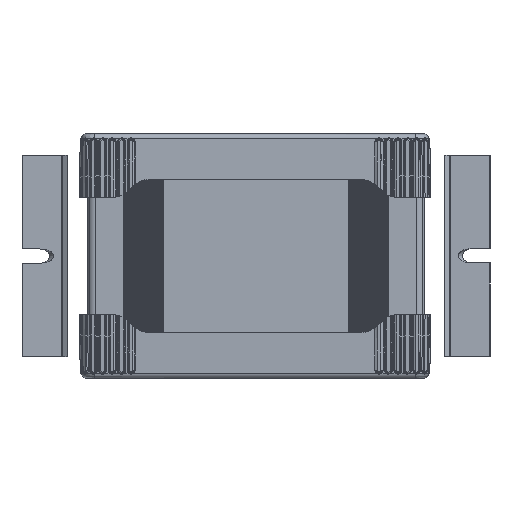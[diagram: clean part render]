
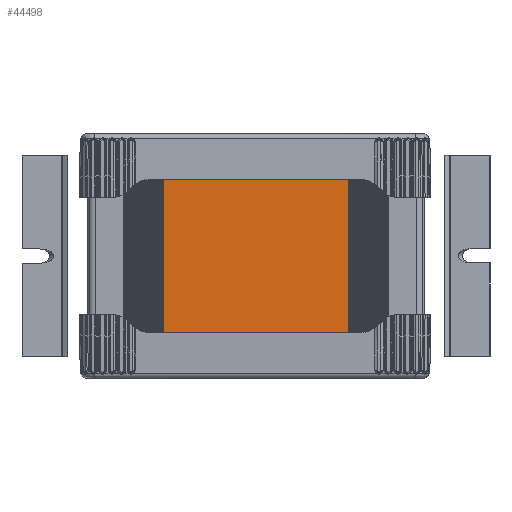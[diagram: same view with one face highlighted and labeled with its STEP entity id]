
A CAD part, front view. The second image highlights one B-rep face of the part: STEP entity #44498.
In plain terms, the highlighted planar face has unit normal (0, -1, 0).
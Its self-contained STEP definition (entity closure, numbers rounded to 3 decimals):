
#680 = CARTESIAN_POINT ( 'NONE',  ( -36.275, -16.808, 40.25 ) ) ;
#4813 = VERTEX_POINT ( 'NONE', #680 ) ;
#5842 = LINE ( 'NONE', #43972, #31419 ) ;
#5951 = ORIENTED_EDGE ( 'NONE', *, *, #16249, .T. ) ;
#12753 = PLANE ( 'NONE',  #43008 ) ;
#15816 = CARTESIAN_POINT ( 'NONE',  ( 37.042, -16.808, 40.25 ) ) ;
#15866 = DIRECTION ( 'NONE',  ( 0., 0., -1. ) ) ;
#16249 = EDGE_CURVE ( 'NONE', #50036, #33842, #5842, .T. ) ;
#16640 = VECTOR ( 'NONE', #15866, 1000. ) ;
#18359 = CARTESIAN_POINT ( 'NONE',  ( -36.275, -16.808, -40.25 ) ) ;
#21310 = ORIENTED_EDGE ( 'NONE', *, *, #29908, .F. ) ;
#21967 = LINE ( 'NONE', #15816, #34821 ) ;
#22445 = DIRECTION ( 'NONE',  ( 0., 0., 1. ) ) ;
#25884 = VECTOR ( 'NONE', #30947, 1000. ) ;
#29601 = EDGE_CURVE ( 'NONE', #4813, #50036, #42253, .T. ) ;
#29763 = FACE_OUTER_BOUND ( 'NONE', #56979, .T. ) ;
#29908 = EDGE_CURVE ( 'NONE', #58936, #33842, #21967, .T. ) ;
#30947 = DIRECTION ( 'NONE',  ( 1., 0., 0. ) ) ;
#30958 = DIRECTION ( 'NONE',  ( 0., 0., -1. ) ) ;
#31419 = VECTOR ( 'NONE', #59324, 1000. ) ;
#33381 = CARTESIAN_POINT ( 'NONE',  ( 37.042, -16.808, 40.25 ) ) ;
#33842 = VERTEX_POINT ( 'NONE', #62002 ) ;
#34821 = VECTOR ( 'NONE', #30958, 1000. ) ;
#40204 = LINE ( 'NONE', #49926, #25884 ) ;
#41622 = ORIENTED_EDGE ( 'NONE', *, *, #29601, .T. ) ;
#42253 = LINE ( 'NONE', #44623, #16640 ) ;
#42339 = EDGE_CURVE ( 'NONE', #4813, #58936, #40204, .T. ) ;
#43008 = AXIS2_PLACEMENT_3D ( 'NONE', #46352, #51117, #22445 ) ;
#43972 = CARTESIAN_POINT ( 'NONE',  ( -36.275, -16.808, -40.25 ) ) ;
#44498 = ADVANCED_FACE ( 'NONE', ( #29763 ), #12753, .F. ) ;
#44623 = CARTESIAN_POINT ( 'NONE',  ( -36.275, -16.808, 40.25 ) ) ;
#46352 = CARTESIAN_POINT ( 'NONE',  ( -36.275, -16.808, 40.25 ) ) ;
#49926 = CARTESIAN_POINT ( 'NONE',  ( -36.275, -16.808, 40.25 ) ) ;
#50036 = VERTEX_POINT ( 'NONE', #18359 ) ;
#51117 = DIRECTION ( 'NONE',  ( 0., 1., 0. ) ) ;
#56043 = ORIENTED_EDGE ( 'NONE', *, *, #42339, .F. ) ;
#56979 = EDGE_LOOP ( 'NONE', ( #5951, #21310, #56043, #41622 ) ) ;
#58936 = VERTEX_POINT ( 'NONE', #33381 ) ;
#59324 = DIRECTION ( 'NONE',  ( 1., 0., 0. ) ) ;
#62002 = CARTESIAN_POINT ( 'NONE',  ( 37.042, -16.808, -40.25 ) ) ;
